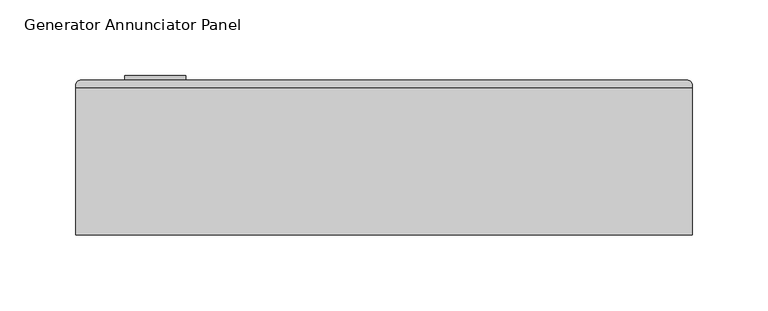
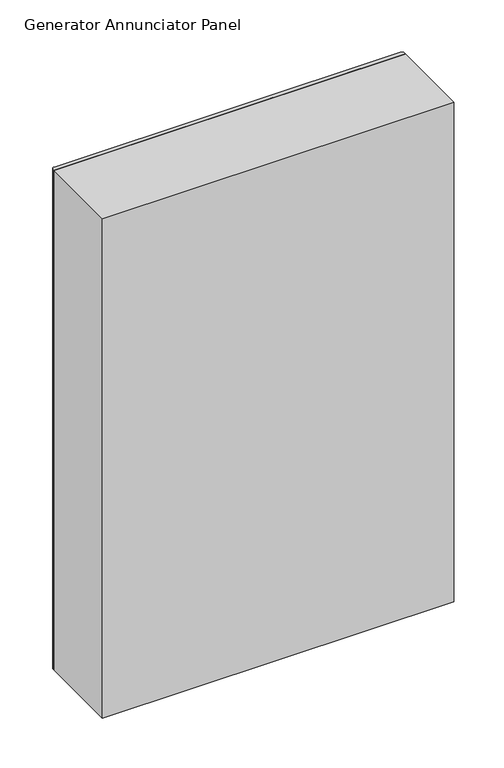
"""IFC4 building model written with IfcOpenShell, lengths in millimetres: proxy geometry, Generator_Annunciator_Panel_Wallmount_BIM_Model : Generator Annunciator Panel."""

from ifc_helpers import new_model, si_unit, point, frame, frame_2d, origin, place, context, project, spatial, polyline, circle_curve, trimmed, segment, composite_curve, outline, extrude, source, transform, mapped, element, save


def generator_annunciator_panel_2783cb85(model_context):
    return source(origin(), model_context, "Body", "SweptSolid", [
        extrude(outline(composite_curve([segment(trimmed(circle_curve(frame_2d((841.0, -25.7242533)), 20.0), [point((841.0, -45.7242533))], [point((841.0, -5.7242533))], False, "CARTESIAN"), True, "CONTINUOUS"), segment(trimmed(circle_curve(frame_2d((841.0, -25.7242533)), 20.0), [point((841.0, -5.7242533))], [point((841.0, -45.7242533))], False, "CARTESIAN"), True, "CONTINUOUS")], self_intersect=False), holes=[polyline([(848.2746144, -27.5), (848.2746144, -22.5), (833.2746144, -22.5), (833.2746144, -27.5), (848.2746144, -27.5)])]), frame((0.0, 176.6665569, 0.0), z_axis=(0.0, 1.0, 0.0), x_axis=(0.0, 0.0, 1.0)), (0.0, 0.0, 1.0), 3.0),
        extrude(outline(composite_curve([segment(trimmed(circle_curve(frame_2d((325.0, 173.6665569)), 3.0), [point((325.0, 176.6665569))], [point((328.0, 173.6665569))], False, "CARTESIAN"), True, "CONTINUOUS"), segment(polyline([(328.0, 173.6665569), (328.0, 171.784842), (-78.0, 171.784842), (-78.0, 173.6665569)]), True, "CONTINUOUS"), segment(trimmed(circle_curve(frame_2d((-75.0, 173.6665569)), 3.0), [point((-78.0, 173.6665569))], [point((-75.0, 176.6665569))], False, "CARTESIAN"), True, "CONTINUOUS"), segment(polyline([(-75.0, 176.6665569), (325.0, 176.6665569)]), True, "CONTINUOUS")], self_intersect=False)), frame((0.0, 0.0, 460.0), z_axis=(0.0, 0.0, 1.0), x_axis=(1.0, 0.0, 0.0)), (0.0, 0.0, 1.0), 610.0),
        extrude(outline(polyline([(328.0, 171.784842), (328.0, 74.6665569), (-78.0, 74.6665569), (-78.0, 171.784842), (328.0, 171.784842)])), frame((0.0, 0.0, 460.0), z_axis=(0.0, 0.0, 1.0), x_axis=(1.0, 0.0, 0.0)), (0.0, 0.0, 1.0), 610.0),
    ])


if __name__ == "__main__":
    model = new_model("IFC4")
    model_context = context("Model", 3, world=origin())
    ifc_project = project(units=[si_unit("LENGTHUNIT", "METRE", prefix="MILLI")], contexts=[model_context])
    site = spatial("IfcSite", under=ifc_project)
    building = spatial("IfcBuilding", under=site)
    placement = place(None, origin())
    generator_annunciator_panel_shape = generator_annunciator_panel_2783cb85(model_context)
    element("IfcBuildingElementProxy", 1, Name="Generator_Annunciator_Panel_Wallmount_BIM_Model : Generator Annunciator Panel", ObjectType="Generator_Annunciator_Panel_Wallmount_BIM_Model : Generator Annunciator Panel", at=placement, inside=building, context=model_context, shape_type="MappedRepresentation", body=[
        mapped(generator_annunciator_panel_shape, transform((0.0, 0.0, 0.0), x_axis=(1.0, 0.0, 0.0), y_axis=(0.0, 1.0, 0.0), z_axis=(0.0, 0.0, 1.0))),
    ])
    save(model, "model.ifc")
